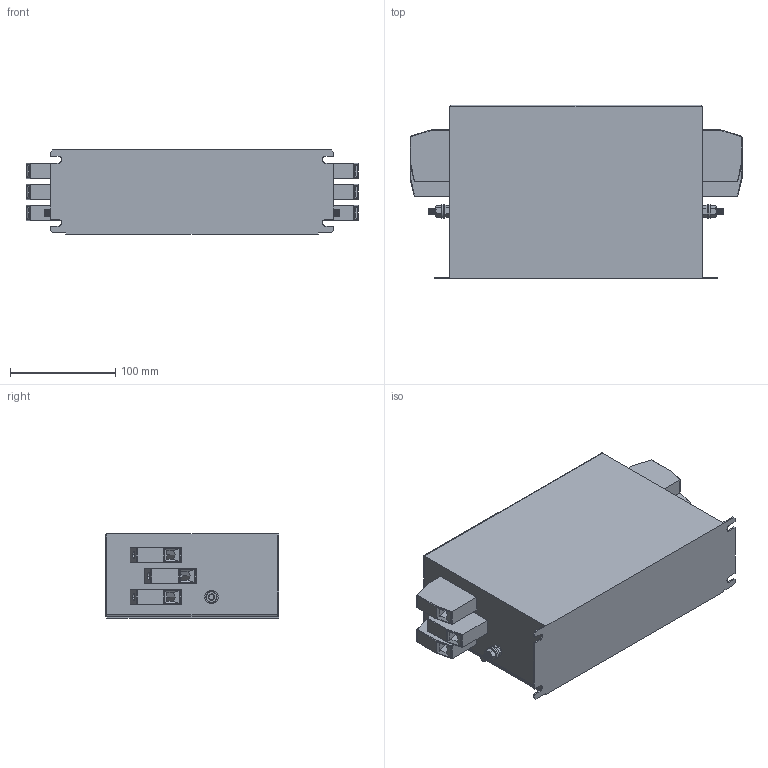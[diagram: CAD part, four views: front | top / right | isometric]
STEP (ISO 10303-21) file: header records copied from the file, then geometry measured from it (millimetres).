
FILE_DESCRIPTION (( 'STEP AP214' ), '1' );
FILE_NAME ('NF-KC-63-LKY.STEP', '2021-08-03T06:29:55', ( '' ), ( '' ), 'SwSTEP 2.0', 'SolidWorks 2021', '' );
FILE_SCHEMA (( 'AUTOMOTIVE_DESIGN' ));
Length unit declared in the file: millimetre
Products named in the file (7): flat washer narrow_am_B18.22M - Plain washer, 6 mm, narrow; hex screw_am_B18.6.7M - M6 x 1.0 x 16 Indented HHMS --16S; NF-63-LKY; HDFK-25; hex nut style 1_am_B18.2.4.1M - Hex nut, Style 1,  M6 x 1 --D-N; M6x16 Earth post; 63-LKY case
Assembly tree (13 placements, depth 3):
  NF-63-LKY
    63-LKY case
    HDFK-25  x6
    M6x16 Earth post  x2
      flat washer narrow_am_B18.22M - Plain washer, 6 mm, narrow
      hex nut style 1_am_B18.2.4.1M - Hex nut, Style 1,  M6 x 1 --D-N
      hex screw_am_B18.6.7M - M6 x 1.0 x 16 Indented HHMS --16S
Bounding box: 316.01 x 165 x 80 mm (x, y, z)
Volume: 3309270.9 mm3; surface area: 214244.4 mm2
Topology: 15 solids, 15 shells, 797 faces, 1781 edges, 1052 vertices
Faces by surface type: plane 467, cone 182, cylinder 146, bspline 2
Entity records: 7887 total; most frequent: CARTESIAN_POINT 1421, DIRECTION 1353, ORIENTED_EDGE 1236, EDGE_CURVE 618, AXIS2_PLACEMENT_3D 487, VECTOR 379, LINE 379, VERTEX_POINT 363
